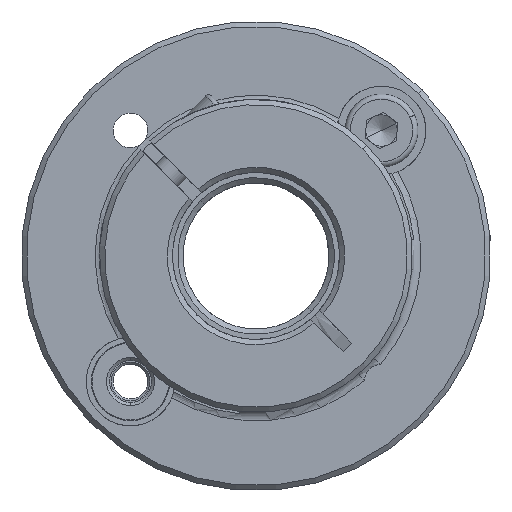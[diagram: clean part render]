
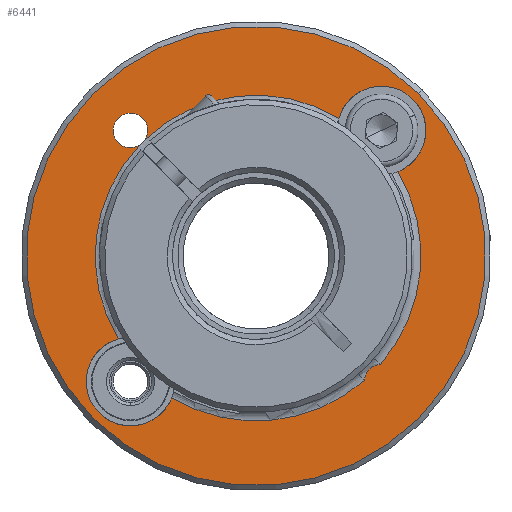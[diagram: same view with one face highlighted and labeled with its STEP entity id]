
A CAD part, front view. The second image highlights one B-rep face of the part: STEP entity #6441.
In plain terms, the highlighted planar face has unit normal (0, -1, 0).
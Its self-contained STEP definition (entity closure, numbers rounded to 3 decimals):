
#51 = FACE_BOUND ( 'NONE', #3979, .T. ) ;
#53 = CARTESIAN_POINT ( 'NONE',  ( -9.653, -8.743, 62. ) ) ;
#330 = AXIS2_PLACEMENT_3D ( 'NONE', #4798, #1095, #4101 ) ;
#455 = VERTEX_POINT ( 'NONE', #5149 ) ;
#512 = CIRCLE ( 'NONE', #852, 4.25 ) ;
#521 = DIRECTION ( 'NONE',  ( 0., 1., 0. ) ) ;
#580 = CARTESIAN_POINT ( 'NONE',  ( 14.285, -8.743, 39.605 ) ) ;
#587 = EDGE_CURVE ( 'NONE', #4925, #6646, #6857, .T. ) ;
#598 = VERTEX_POINT ( 'NONE', #1504 ) ;
#658 = VERTEX_POINT ( 'NONE', #2384 ) ;
#760 = DIRECTION ( 'NONE',  ( 0.707, 0., 0.707 ) ) ;
#773 = DIRECTION ( 'NONE',  ( 0.707, 0., 0.707 ) ) ;
#838 = ORIENTED_EDGE ( 'NONE', *, *, #4065, .T. ) ;
#852 = AXIS2_PLACEMENT_3D ( 'NONE', #7619, #7703, #954 ) ;
#924 = CIRCLE ( 'NONE', #3868, 1.65 ) ;
#928 = EDGE_CURVE ( 'NONE', #6463, #598, #512, .T. ) ;
#929 = ORIENTED_EDGE ( 'NONE', *, *, #5996, .T. ) ;
#945 = CIRCLE ( 'NONE', #5186, 1.65 ) ;
#947 = DIRECTION ( 'NONE',  ( 0.707, 0., 0.707 ) ) ;
#954 = DIRECTION ( 'NONE',  ( 0.707, 0., 0.707 ) ) ;
#1064 = ORIENTED_EDGE ( 'NONE', *, *, #6508, .T. ) ;
#1095 = DIRECTION ( 'NONE',  ( 0., -1., 0. ) ) ;
#1380 = CARTESIAN_POINT ( 'NONE',  ( 14.388, -8.743, 37.958 ) ) ;
#1467 = VERTEX_POINT ( 'NONE', #5692 ) ;
#1504 = CARTESIAN_POINT ( 'NONE',  ( 17.393, -8.743, 65.005 ) ) ;
#1576 = CIRCLE ( 'NONE', #2515, 15.4 ) ;
#1805 = AXIS2_PLACEMENT_3D ( 'NONE', #1380, #4293, #7357 ) ;
#1812 = DIRECTION ( 'NONE',  ( 0.707, 0., 0.707 ) ) ;
#2037 = DIRECTION ( 'NONE',  ( 0.707, 0., 0.707 ) ) ;
#2059 = VERTEX_POINT ( 'NONE', #2470 ) ;
#2089 = CIRCLE ( 'NONE', #5837, 4.25 ) ;
#2203 = CIRCLE ( 'NONE', #4582, 15.4 ) ;
#2233 = ORIENTED_EDGE ( 'NONE', *, *, #928, .T. ) ;
#2317 = DIRECTION ( 'NONE',  ( 0.707, 0., 0.707 ) ) ;
#2384 = CARTESIAN_POINT ( 'NONE',  ( 12.742, -8.743, 38.062 ) ) ;
#2470 = CARTESIAN_POINT ( 'NONE',  ( -8.487, -8.743, 63.167 ) ) ;
#2515 = AXIS2_PLACEMENT_3D ( 'NONE', #5018, #521, #2037 ) ;
#2689 = CARTESIAN_POINT ( 'NONE',  ( 15.952, -8.743, 58.048 ) ) ;
#2764 = CARTESIAN_POINT ( 'NONE',  ( 2.367, -8.743, 49.979 ) ) ;
#2881 = CIRCLE ( 'NONE', #9319, 15.8 ) ;
#2990 = ORIENTED_EDGE ( 'NONE', *, *, #8828, .T. ) ;
#3048 = CARTESIAN_POINT ( 'NONE',  ( -9.653, -8.743, 37.958 ) ) ;
#3057 = DIRECTION ( 'NONE',  ( 0., 1., 0. ) ) ;
#3143 = CARTESIAN_POINT ( 'NONE',  ( 2.367, -8.743, 49.979 ) ) ;
#3189 = VERTEX_POINT ( 'NONE', #3260 ) ;
#3219 = EDGE_CURVE ( 'NONE', #455, #2059, #924, .T. ) ;
#3244 = EDGE_CURVE ( 'NONE', #3495, #658, #6427, .T. ) ;
#3260 = CARTESIAN_POINT ( 'NONE',  ( -8.247, -8.743, 61.137 ) ) ;
#3263 = CARTESIAN_POINT ( 'NONE',  ( 2.367, -8.743, 49.979 ) ) ;
#3275 = AXIS2_PLACEMENT_3D ( 'NONE', #6989, #7841, #9340 ) ;
#3292 = DIRECTION ( 'NONE',  ( 0.707, 0., 0.707 ) ) ;
#3357 = CARTESIAN_POINT ( 'NONE',  ( -9.653, -8.743, 62. ) ) ;
#3451 = EDGE_CURVE ( 'NONE', #2059, #3189, #5383, .T. ) ;
#3480 = CARTESIAN_POINT ( 'NONE',  ( 10.304, -8.743, 63.176 ) ) ;
#3495 = VERTEX_POINT ( 'NONE', #580 ) ;
#3676 = DIRECTION ( 'NONE',  ( 0.707, 0., 0.707 ) ) ;
#3843 = CARTESIAN_POINT ( 'NONE',  ( -5.701, -8.743, 36.395 ) ) ;
#3868 = AXIS2_PLACEMENT_3D ( 'NONE', #3357, #7132, #6303 ) ;
#3979 = EDGE_LOOP ( 'NONE', ( #9728, #4959, #838, #9474, #5542, #2990, #9163, #7175, #1064, #2233, #7529, #929 ) ) ;
#4020 = AXIS2_PLACEMENT_3D ( 'NONE', #3263, #7061, #3292 ) ;
#4065 = EDGE_CURVE ( 'NONE', #6130, #4925, #2089, .T. ) ;
#4101 = DIRECTION ( 'NONE',  ( 0., 0., -1. ) ) ;
#4293 = DIRECTION ( 'NONE',  ( 0., -1., 0. ) ) ;
#4492 = CARTESIAN_POINT ( 'NONE',  ( -13.189, -8.743, 34.423 ) ) ;
#4566 = EDGE_CURVE ( 'NONE', #6646, #8440, #2203, .T. ) ;
#4582 = AXIS2_PLACEMENT_3D ( 'NONE', #8274, #8174, #3676 ) ;
#4622 = EDGE_CURVE ( 'NONE', #5079, #1467, #8655, .T. ) ;
#4719 = ORIENTED_EDGE ( 'NONE', *, *, #4622, .T. ) ;
#4728 = AXIS2_PLACEMENT_3D ( 'NONE', #3048, #5251, #760 ) ;
#4798 = CARTESIAN_POINT ( 'NONE',  ( 14.388, -8.743, 37.958 ) ) ;
#4925 = VERTEX_POINT ( 'NONE', #7382 ) ;
#4959 = ORIENTED_EDGE ( 'NONE', *, *, #8940, .T. ) ;
#5018 = CARTESIAN_POINT ( 'NONE',  ( 2.367, -8.743, 49.979 ) ) ;
#5073 = ORIENTED_EDGE ( 'NONE', *, *, #6762, .T. ) ;
#5079 = VERTEX_POINT ( 'NONE', #4492 ) ;
#5090 = PLANE ( 'NONE',  #1805 ) ;
#5149 = CARTESIAN_POINT ( 'NONE',  ( -10.82, -8.743, 60.833 ) ) ;
#5159 = DIRECTION ( 'NONE',  ( 0.707, 0., 0.707 ) ) ;
#5186 = AXIS2_PLACEMENT_3D ( 'NONE', #7555, #3057, #5159 ) ;
#5251 = DIRECTION ( 'NONE',  ( 0., 1., 0. ) ) ;
#5297 = CARTESIAN_POINT ( 'NONE',  ( -8.79, -8.743, 60.594 ) ) ;
#5383 = CIRCLE ( 'NONE', #6881, 1.65 ) ;
#5542 = ORIENTED_EDGE ( 'NONE', *, *, #4566, .T. ) ;
#5575 = DIRECTION ( 'NONE',  ( 0., 1., 0. ) ) ;
#5677 = FACE_OUTER_BOUND ( 'NONE', #6200, .T. ) ;
#5692 = CARTESIAN_POINT ( 'NONE',  ( 17.924, -8.743, 65.536 ) ) ;
#5787 = DIRECTION ( 'NONE',  ( 0., 1., 0. ) ) ;
#5837 = AXIS2_PLACEMENT_3D ( 'NONE', #9110, #9074, #773 ) ;
#5996 = EDGE_CURVE ( 'NONE', #8594, #3495, #2881, .T. ) ;
#6005 = AXIS2_PLACEMENT_3D ( 'NONE', #7802, #5575, #1812 ) ;
#6130 = VERTEX_POINT ( 'NONE', #3843 ) ;
#6200 = EDGE_LOOP ( 'NONE', ( #4719, #5073 ) ) ;
#6303 = DIRECTION ( 'NONE',  ( 0.707, 0., 0.707 ) ) ;
#6356 = CIRCLE ( 'NONE', #4020, 22. ) ;
#6427 = CIRCLE ( 'NONE', #330, 1.65 ) ;
#6441 = ADVANCED_FACE ( 'NONE', ( #51, #5677 ), #5090, .T. ) ;
#6463 = VERTEX_POINT ( 'NONE', #3480 ) ;
#6508 = EDGE_CURVE ( 'NONE', #3189, #6463, #1576, .T. ) ;
#6569 = CIRCLE ( 'NONE', #6005, 15.8 ) ;
#6646 = VERTEX_POINT ( 'NONE', #8427 ) ;
#6762 = EDGE_CURVE ( 'NONE', #1467, #5079, #6356, .T. ) ;
#6832 = DIRECTION ( 'NONE',  ( 0., 1., 0. ) ) ;
#6857 = CIRCLE ( 'NONE', #4728, 4.25 ) ;
#6881 = AXIS2_PLACEMENT_3D ( 'NONE', #53, #6832, #2317 ) ;
#6908 = DIRECTION ( 'NONE',  ( 0., -1., 0. ) ) ;
#6989 = CARTESIAN_POINT ( 'NONE',  ( 14.388, -8.743, 62. ) ) ;
#7061 = DIRECTION ( 'NONE',  ( 0., -1., 0. ) ) ;
#7080 = AXIS2_PLACEMENT_3D ( 'NONE', #3143, #6908, #947 ) ;
#7132 = DIRECTION ( 'NONE',  ( 0., 1., 0. ) ) ;
#7175 = ORIENTED_EDGE ( 'NONE', *, *, #3451, .T. ) ;
#7357 = DIRECTION ( 'NONE',  ( -0.989, 0., -0.145 ) ) ;
#7382 = CARTESIAN_POINT ( 'NONE',  ( -12.659, -8.743, 34.953 ) ) ;
#7430 = EDGE_CURVE ( 'NONE', #598, #8594, #8246, .T. ) ;
#7529 = ORIENTED_EDGE ( 'NONE', *, *, #7430, .T. ) ;
#7555 = CARTESIAN_POINT ( 'NONE',  ( -9.653, -8.743, 62. ) ) ;
#7619 = CARTESIAN_POINT ( 'NONE',  ( 14.388, -8.743, 62. ) ) ;
#7703 = DIRECTION ( 'NONE',  ( 0., 1., 0. ) ) ;
#7802 = CARTESIAN_POINT ( 'NONE',  ( 2.367, -8.743, 49.979 ) ) ;
#7841 = DIRECTION ( 'NONE',  ( 0., 1., 0. ) ) ;
#8174 = DIRECTION ( 'NONE',  ( 0., 1., 0. ) ) ;
#8246 = CIRCLE ( 'NONE', #3275, 4.25 ) ;
#8274 = CARTESIAN_POINT ( 'NONE',  ( 2.367, -8.743, 49.979 ) ) ;
#8427 = CARTESIAN_POINT ( 'NONE',  ( -10.83, -8.743, 42.042 ) ) ;
#8440 = VERTEX_POINT ( 'NONE', #5297 ) ;
#8594 = VERTEX_POINT ( 'NONE', #2689 ) ;
#8655 = CIRCLE ( 'NONE', #7080, 22. ) ;
#8828 = EDGE_CURVE ( 'NONE', #8440, #455, #945, .T. ) ;
#8940 = EDGE_CURVE ( 'NONE', #658, #6130, #6569, .T. ) ;
#9074 = DIRECTION ( 'NONE',  ( 0., 1., 0. ) ) ;
#9110 = CARTESIAN_POINT ( 'NONE',  ( -9.653, -8.743, 37.958 ) ) ;
#9163 = ORIENTED_EDGE ( 'NONE', *, *, #3219, .T. ) ;
#9319 = AXIS2_PLACEMENT_3D ( 'NONE', #2764, #5787, #9506 ) ;
#9340 = DIRECTION ( 'NONE',  ( 0.707, 0., 0.707 ) ) ;
#9474 = ORIENTED_EDGE ( 'NONE', *, *, #587, .T. ) ;
#9506 = DIRECTION ( 'NONE',  ( 0.707, 0., 0.707 ) ) ;
#9728 = ORIENTED_EDGE ( 'NONE', *, *, #3244, .T. ) ;
